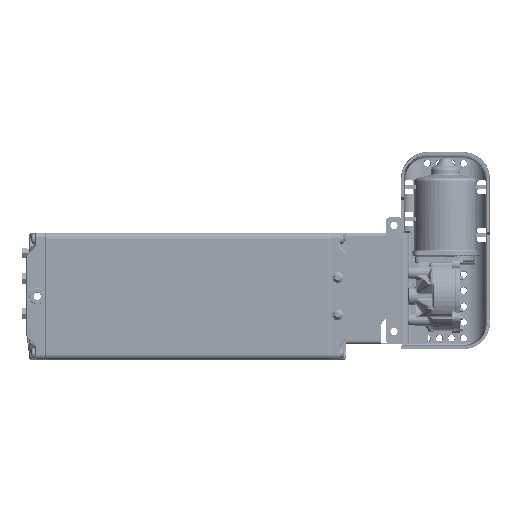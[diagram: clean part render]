
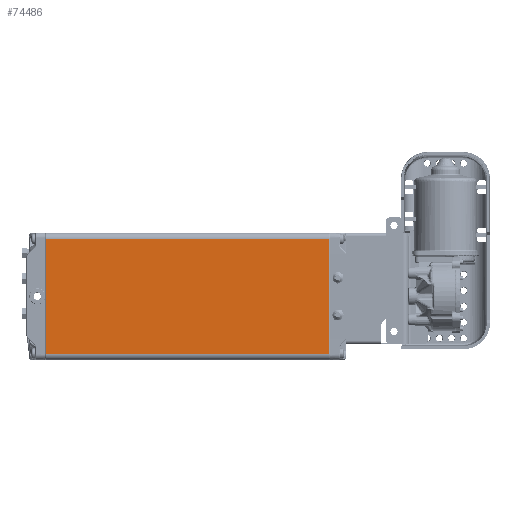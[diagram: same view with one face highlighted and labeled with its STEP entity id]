
A CAD part, top view. The second image highlights one B-rep face of the part: STEP entity #74486.
In plain terms, the highlighted planar face has unit normal (0, 0, 1).
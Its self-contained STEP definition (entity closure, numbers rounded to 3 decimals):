
#7085=LINE('',#125767,#10108);
#7086=LINE('',#125770,#10109);
#7087=LINE('',#125772,#10110);
#7088=LINE('',#125774,#10111);
#10108=VECTOR('',#86943,1000.);
#10109=VECTOR('',#86944,1000.);
#10110=VECTOR('',#86945,1000.);
#10111=VECTOR('',#86946,1000.);
#17826=ORIENTED_EDGE('',*,*,#34881,.T.);
#17827=ORIENTED_EDGE('',*,*,#34882,.T.);
#17828=ORIENTED_EDGE('',*,*,#34883,.T.);
#17829=ORIENTED_EDGE('',*,*,#34884,.T.);
#34881=EDGE_CURVE('',#43638,#43639,#7085,.F.);
#34882=EDGE_CURVE('',#43639,#43640,#7086,.T.);
#34883=EDGE_CURVE('',#43640,#43641,#7087,.T.);
#34884=EDGE_CURVE('',#43641,#43638,#7088,.F.);
#43638=VERTEX_POINT('',#125768);
#43639=VERTEX_POINT('',#125769);
#43640=VERTEX_POINT('',#125771);
#43641=VERTEX_POINT('',#125773);
#52062=EDGE_LOOP('',(#17826,#17827,#17828,#17829));
#56663=FACE_BOUND('',#52062,.T.);
#60409=PLANE('',#78992);
#74486=ADVANCED_FACE('',(#56663),#60409,.T.);
#78992=AXIS2_PLACEMENT_3D('',#125766,#86941,#86942);
#86941=DIRECTION('',(0.,0.,1.));
#86942=DIRECTION('',(1.,0.,0.));
#86943=DIRECTION('',(0.,-1.,0.));
#86944=DIRECTION('',(-1.,0.,0.));
#86945=DIRECTION('',(0.,-1.,0.));
#86946=DIRECTION('',(-1.,0.,0.));
#125766=CARTESIAN_POINT('',(60.,268.5,30.));
#125767=CARTESIAN_POINT('',(54.,268.5,30.));
#125768=CARTESIAN_POINT('',(54.,0.5,30.));
#125769=CARTESIAN_POINT('',(54.,268.,30.));
#125770=CARTESIAN_POINT('',(60.,268.,30.));
#125771=CARTESIAN_POINT('',(-54.,268.,30.));
#125772=CARTESIAN_POINT('',(-54.,268.5,30.));
#125773=CARTESIAN_POINT('',(-54.,0.5,30.));
#125774=CARTESIAN_POINT('',(54.,0.5,30.));
